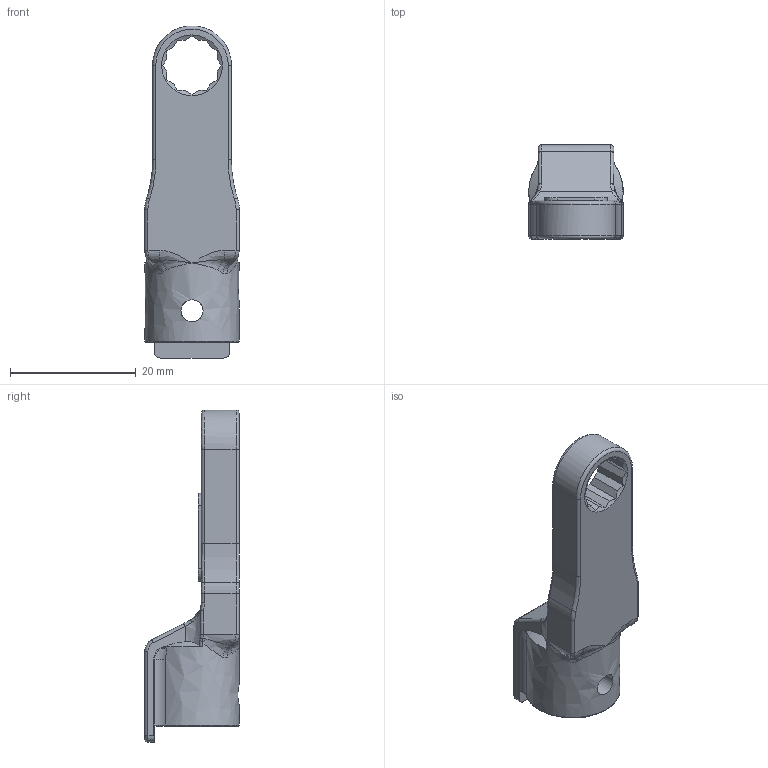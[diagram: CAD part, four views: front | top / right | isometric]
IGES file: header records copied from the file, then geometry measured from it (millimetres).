
Global section: file name: RH10DX8; native system: Autodesk Inventor 2016; preprocessor: unknown; author: Q600; date: 20151110.155718; units: millimetre
Bounding box: 15 x 15 x 52.74 mm (x, y, z)
Volume: 4232.9 mm3; surface area: 3111.9 mm2
Topology: 1 solids, 1 shells, 145 faces, 379 edges, 227 vertices
Faces by surface type: bspline 145
